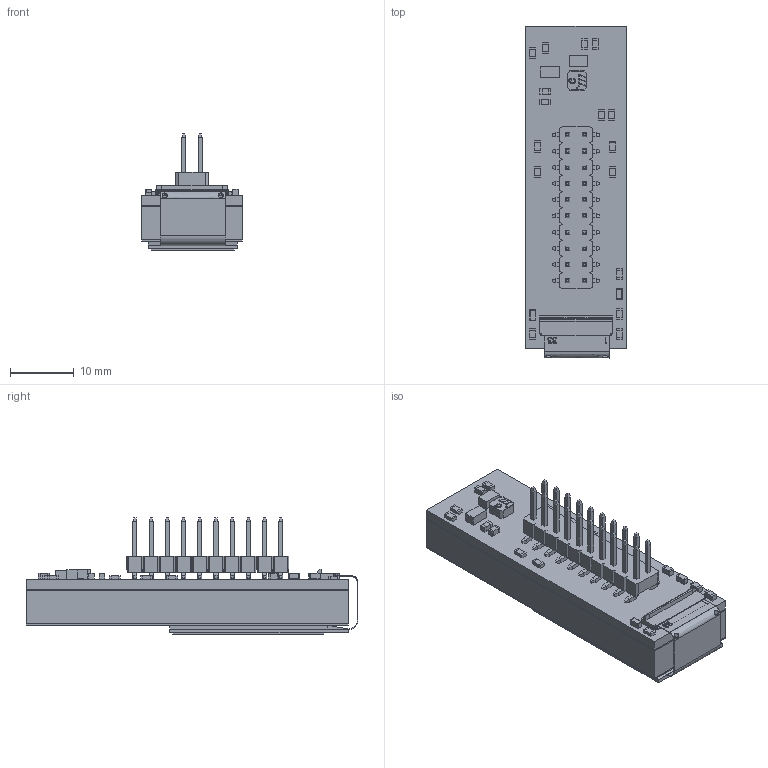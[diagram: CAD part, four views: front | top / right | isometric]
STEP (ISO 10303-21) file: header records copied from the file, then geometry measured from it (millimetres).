
FILE_DESCRIPTION (( 'STEP AP214' ), '1' );
FILE_NAME ('CFAL64128B0-0096WC-E1.STEP', '2025-02-05T20:35:38', ( '' ), ( '' ), 'SwSTEP 2.0', 'SolidWorks 2021', '' );
FILE_SCHEMA (( 'AUTOMOTIVE_DESIGN' ));
Length unit declared in the file: millimetre
Products named in the file (5): cfa10111; CFAL64128B0-0096WC-E1; spacers; CFAL64128B0-0096B-WC; thin tape
Assembly tree (5 placements, depth 2):
  CFAL64128B0-0096WC-E1
    cfa10111
    CFAL64128B0-0096B-WC
    spacers
    thin tape  x2
Bounding box: 15.75 x 52.02 x 18.23 mm (x, y, z)
Volume: 4991.6 mm3; surface area: 11491.6 mm2
Topology: 8 solids, 98 shells, 2905 faces, 7872 edges, 5160 vertices
Faces by surface type: plane 2409, cylinder 439, bspline 41, sphere 16
Entity records: 100133 total; most frequent: CARTESIAN_POINT 23701, ORIENTED_EDGE 15610, DIRECTION 12707, EDGE_CURVE 7844, VECTOR 5225, LINE 5225, VERTEX_POINT 5152, AXIS2_PLACEMENT_3D 3741
